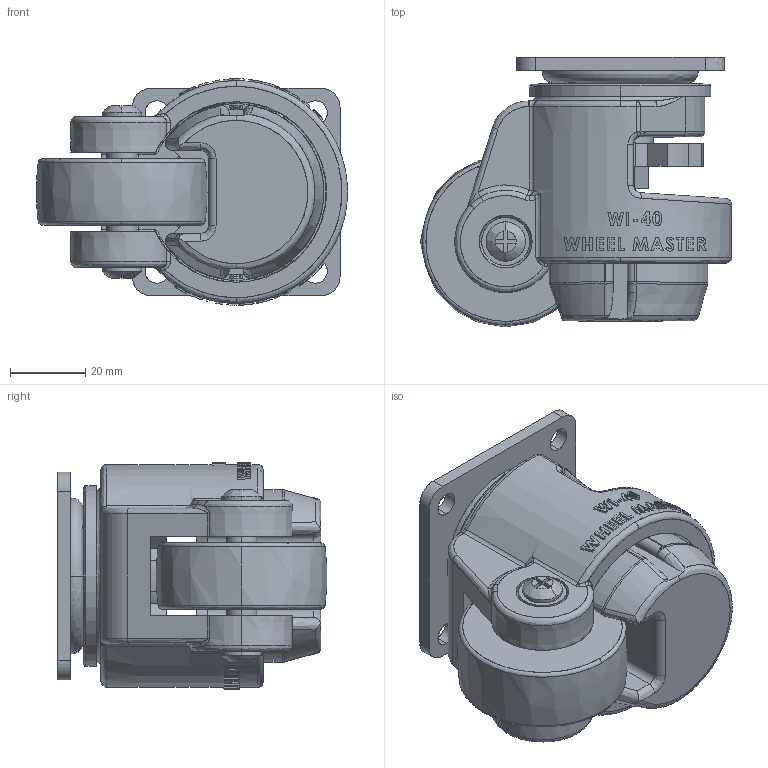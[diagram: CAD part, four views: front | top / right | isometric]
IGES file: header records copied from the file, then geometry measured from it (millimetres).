
Start section: SolidWorks IGES file using analytic representation for surfaces
Bounding box: 82.44 x 71.44 x 60 mm (x, y, z)
Surface area: 47390 mm2 (no closed solid volume)
Topology: 0 solids, 0 shells, 706 faces, 8548 edges, 8526 vertices
Faces by surface type: bspline 513, revolution 193
